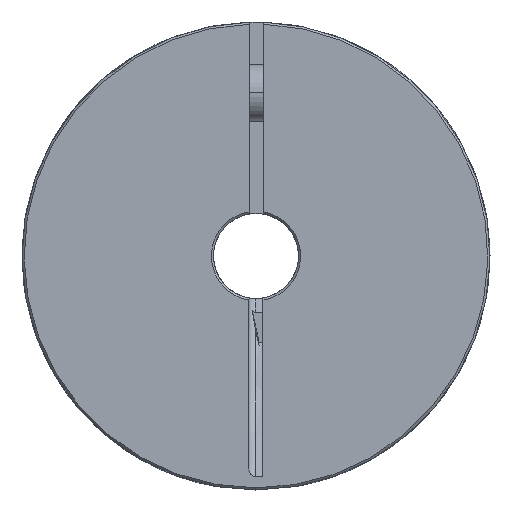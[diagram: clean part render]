
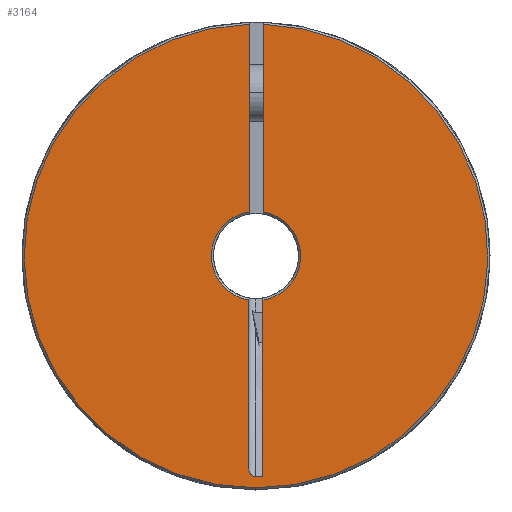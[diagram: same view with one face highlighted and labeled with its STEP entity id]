
A CAD part, left-side view. The second image highlights one B-rep face of the part: STEP entity #3164.
In plain terms, the highlighted planar face has unit normal (-1, 0, 0) as drawn and (0, 0, 1) by its records, which use the part's own axes.
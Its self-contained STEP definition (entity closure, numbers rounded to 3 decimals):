
#11 = ORIENTED_EDGE ( 'NONE', *, *, #396, .T. ) ;
#52 = EDGE_CURVE ( 'NONE', #3623, #3332, #743, .T. ) ;
#142 = ORIENTED_EDGE ( 'NONE', *, *, #3679, .T. ) ;
#150 = VERTEX_POINT ( 'NONE', #1608 ) ;
#175 = ORIENTED_EDGE ( 'NONE', *, *, #275, .T. ) ;
#178 = VERTEX_POINT ( 'NONE', #1769 ) ;
#191 = EDGE_CURVE ( 'NONE', #178, #150, #1867, .T. ) ;
#197 = VERTEX_POINT ( 'NONE', #1910 ) ;
#213 = VERTEX_POINT ( 'NONE', #2008 ) ;
#224 = ORIENTED_EDGE ( 'NONE', *, *, #191, .F. ) ;
#248 = EDGE_CURVE ( 'NONE', #2972, #197, #2250, .T. ) ;
#275 = EDGE_CURVE ( 'NONE', #213, #150, #2499, .T. ) ;
#373 = EDGE_CURVE ( 'NONE', #178, #3332, #468, .T. ) ;
#377 = EDGE_CURVE ( 'NONE', #197, #3651, #488, .T. ) ;
#396 = EDGE_CURVE ( 'NONE', #3611, #2972, #614, .T. ) ;
#434 = CIRCLE ( 'NONE', #435, 32.7 ) ;
#435 = AXIS2_PLACEMENT_3D ( 'NONE', #436, #437, #438 ) ;
#436 = CARTESIAN_POINT ( 'NONE',  ( 0., 0., 24. ) ) ;
#437 = DIRECTION ( 'NONE',  ( 0., 0., 1. ) ) ;
#438 = DIRECTION ( 'NONE',  ( 1., 0., 0. ) ) ;
#468 = CIRCLE ( 'NONE', #469, 6.3 ) ;
#469 = AXIS2_PLACEMENT_3D ( 'NONE', #470, #471, #472 ) ;
#470 = CARTESIAN_POINT ( 'NONE',  ( 0., 0., 24. ) ) ;
#471 = DIRECTION ( 'NONE',  ( 0., 0., -1. ) ) ;
#472 = DIRECTION ( 'NONE',  ( 1., 0., 0. ) ) ;
#488 = LINE ( 'NONE', #489, #490 ) ;
#489 = CARTESIAN_POINT ( 'NONE',  ( 0., -1., 24. ) ) ;
#490 = VECTOR ( 'NONE', #491, 1000. ) ;
#491 = DIRECTION ( 'NONE',  ( -1., 0., 0. ) ) ;
#530 = ORIENTED_EDGE ( 'NONE', *, *, #2312, .T. ) ;
#614 = LINE ( 'NONE', #615, #616 ) ;
#615 = CARTESIAN_POINT ( 'NONE',  ( 0., -1., 24. ) ) ;
#616 = VECTOR ( 'NONE', #617, 1000. ) ;
#617 = DIRECTION ( 'NONE',  ( -1., 0., 0. ) ) ;
#743 = LINE ( 'NONE', #744, #745 ) ;
#744 = CARTESIAN_POINT ( 'NONE',  ( 0., 1., 24. ) ) ;
#745 = VECTOR ( 'NONE', #746, 1000. ) ;
#746 = DIRECTION ( 'NONE',  ( -1., 0., 0. ) ) ;
#1119 = ORIENTED_EDGE ( 'NONE', *, *, #373, .T. ) ;
#1608 = CARTESIAN_POINT ( 'NONE',  ( -29.782, 1., 24. ) ) ;
#1645 = ORIENTED_EDGE ( 'NONE', *, *, #248, .T. ) ;
#1769 = CARTESIAN_POINT ( 'NONE',  ( -6.22, 1., 24. ) ) ;
#1867 = LINE ( 'NONE', #1868, #1869 ) ;
#1868 = CARTESIAN_POINT ( 'NONE',  ( 0., 1., 24. ) ) ;
#1869 = VECTOR ( 'NONE', #1870, 1000. ) ;
#1870 = DIRECTION ( 'NONE',  ( -1., 0., 0. ) ) ;
#1910 = CARTESIAN_POINT ( 'NONE',  ( -6.22, -1., 24. ) ) ;
#2008 = CARTESIAN_POINT ( 'NONE',  ( -31.103, 0., 24. ) ) ;
#2029 = CIRCLE ( 'NONE', #2030, 32.7 ) ;
#2030 = AXIS2_PLACEMENT_3D ( 'NONE', #2031, #2032, #2033 ) ;
#2031 = CARTESIAN_POINT ( 'NONE',  ( 0., 0., 24. ) ) ;
#2032 = DIRECTION ( 'NONE',  ( 0., 0., 1. ) ) ;
#2033 = DIRECTION ( 'NONE',  ( 1., 0., 0. ) ) ;
#2250 = CIRCLE ( 'NONE', #2251, 6.3 ) ;
#2251 = AXIS2_PLACEMENT_3D ( 'NONE', #2252, #2253, #2254 ) ;
#2252 = CARTESIAN_POINT ( 'NONE',  ( 0., 0., 24. ) ) ;
#2253 = DIRECTION ( 'NONE',  ( 0., 0., -1. ) ) ;
#2254 = DIRECTION ( 'NONE',  ( 1., 0., 0. ) ) ;
#2312 = EDGE_CURVE ( 'NONE', #3623, #3646, #2029, .T. ) ;
#2345 = CARTESIAN_POINT ( 'NONE',  ( 6.22, -1., 24. ) ) ;
#2451 = FACE_OUTER_BOUND ( 'NONE', #2910, .T. ) ;
#2452 = PLANE ( 'NONE',  #2453 ) ;
#2453 = AXIS2_PLACEMENT_3D ( 'NONE', #2454, #2455, #2456 ) ;
#2454 = CARTESIAN_POINT ( 'NONE',  ( 0., 0., 24. ) ) ;
#2455 = DIRECTION ( 'NONE',  ( 0., 0., 1. ) ) ;
#2456 = DIRECTION ( 'NONE',  ( 1., 0., 0. ) ) ;
#2499 = B_SPLINE_CURVE_WITH_KNOTS ( 'NONE', 3,
 ( #2500, #2501, #2502, #2503, #2504, #2505, #2506, #2507, #2508, #2509 ),
 .UNSPECIFIED., .F., .F.,
 ( 4, 2, 2, 2, 4 ),
 ( 0., 0., 0.001, 0.001, 0.002 ),
 .UNSPECIFIED. ) ;
#2500 = CARTESIAN_POINT ( 'NONE',  ( -31.103, 0., 24. ) ) ;
#2501 = CARTESIAN_POINT ( 'NONE',  ( -31.103, 0.155, 24. ) ) ;
#2502 = CARTESIAN_POINT ( 'NONE',  ( -31.054, 0.305, 24. ) ) ;
#2503 = CARTESIAN_POINT ( 'NONE',  ( -30.932, 0.498, 24. ) ) ;
#2504 = CARTESIAN_POINT ( 'NONE',  ( -30.882, 0.558, 24. ) ) ;
#2505 = CARTESIAN_POINT ( 'NONE',  ( -30.774, 0.665, 24. ) ) ;
#2506 = CARTESIAN_POINT ( 'NONE',  ( -30.714, 0.712, 24. ) ) ;
#2507 = CARTESIAN_POINT ( 'NONE',  ( -30.394, 0.924, 24. ) ) ;
#2508 = CARTESIAN_POINT ( 'NONE',  ( -30.089, 1., 24. ) ) ;
#2509 = CARTESIAN_POINT ( 'NONE',  ( -29.782, 1., 24. ) ) ;
#2551 = CARTESIAN_POINT ( 'NONE',  ( 6.22, 1., 24. ) ) ;
#2878 = LINE ( 'NONE', #2879, #2880 ) ;
#2879 = CARTESIAN_POINT ( 'NONE',  ( -31.103, -1., 24. ) ) ;
#2880 = VECTOR ( 'NONE', #2881, 1000. ) ;
#2881 = DIRECTION ( 'NONE',  ( 0., -1., 0. ) ) ;
#2910 = EDGE_LOOP ( 'NONE', ( #224, #1119, #3181, #530, #142, #11, #1645, #3954, #3902, #175 ) ) ;
#2972 = VERTEX_POINT ( 'NONE', #2345 ) ;
#3038 = CARTESIAN_POINT ( 'NONE',  ( 32.685, -1., 24. ) ) ;
#3067 = CARTESIAN_POINT ( 'NONE',  ( 32.685, 1., 24. ) ) ;
#3164 = ADVANCED_FACE ( 'NONE', ( #2451 ), #2452, .T. ) ;
#3181 = ORIENTED_EDGE ( 'NONE', *, *, #52, .F. ) ;
#3218 = CARTESIAN_POINT ( 'NONE',  ( -32.7, 0., 24. ) ) ;
#3245 = CARTESIAN_POINT ( 'NONE',  ( -31.103, -1., 24. ) ) ;
#3332 = VERTEX_POINT ( 'NONE', #2551 ) ;
#3584 = EDGE_CURVE ( 'NONE', #213, #3651, #2878, .T. ) ;
#3611 = VERTEX_POINT ( 'NONE', #3038 ) ;
#3623 = VERTEX_POINT ( 'NONE', #3067 ) ;
#3646 = VERTEX_POINT ( 'NONE', #3218 ) ;
#3651 = VERTEX_POINT ( 'NONE', #3245 ) ;
#3679 = EDGE_CURVE ( 'NONE', #3646, #3611, #434, .T. ) ;
#3902 = ORIENTED_EDGE ( 'NONE', *, *, #3584, .F. ) ;
#3954 = ORIENTED_EDGE ( 'NONE', *, *, #377, .T. ) ;
